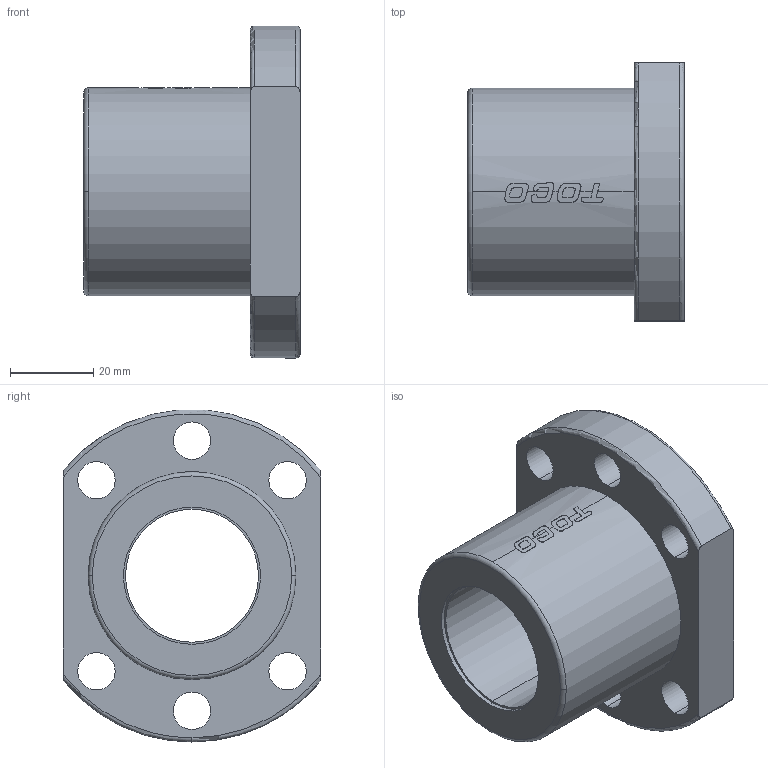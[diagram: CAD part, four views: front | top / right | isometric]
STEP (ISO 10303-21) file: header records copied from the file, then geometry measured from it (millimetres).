
FILE_DESCRIPTION (( 'STEP AP214' ), '1' );
FILE_NAME ('7.3108 STNUR3205T4D.STEP', '2026-03-03T11:07:08', ( '' ), ( '' ), 'SwSTEP 2.0', 'SolidWorks 2025', '' );
FILE_SCHEMA (( 'AUTOMOTIVE_DESIGN' ));
Length unit declared in the file: millimetre
Products named in the file (1): 7.3108 STNUR3205T4D
Bounding box: 52 x 62 x 79.87 mm (x, y, z)
Volume: 84275.6 mm3; surface area: 24507.8 mm2
Topology: 2 solids, 2 shells, 93 faces, 247 edges, 164 vertices
Faces by surface type: cylinder 35, bspline 26, plane 24, torus 8
Entity records: 10573 total; most frequent: CARTESIAN_POINT 8346, ORIENTED_EDGE 494, DIRECTION 378, EDGE_CURVE 247, VERTEX_POINT 164, AXIS2_PLACEMENT_3D 134, EDGE_LOOP 115, VECTOR 110
